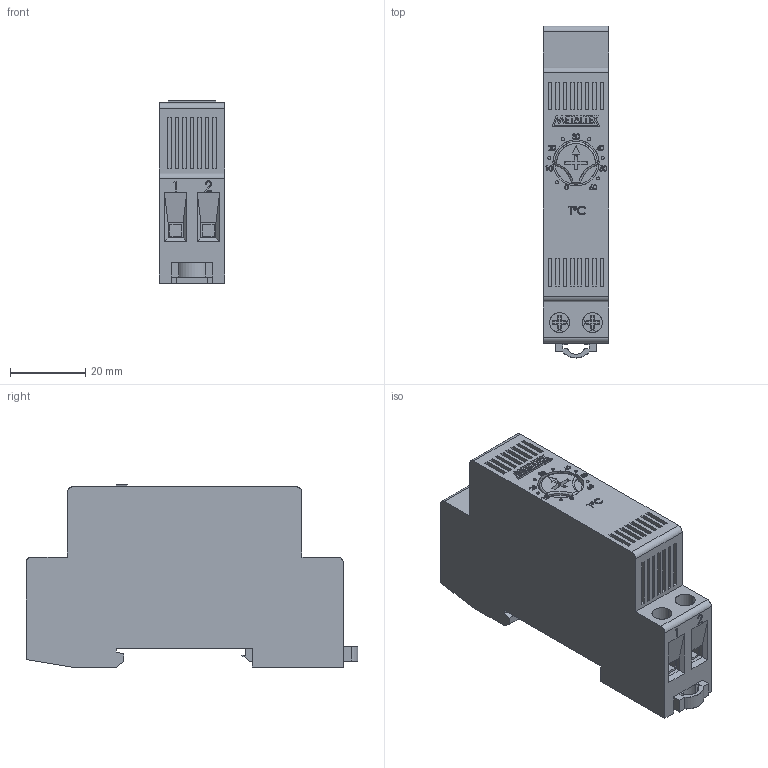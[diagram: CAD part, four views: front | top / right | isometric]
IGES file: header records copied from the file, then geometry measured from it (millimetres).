
Start section: SolidWorks IGES file using analytic representation for surfaces
Global section: file name: D:\X - Arquivos\PROEX\Empresas\P11 - METALTEX\01 - Produtos\IGES\5ª remessa\3ª etapa\TRS-A.IGS; native system: SolidWorks 2012; preprocessor: SolidWorks 2012; author: Usuario; date: 180829.124619; units: millimetre
Bounding box: 17.5 x 88.4 x 48.5 mm (x, y, z)
Surface area: 13403 mm2 (no closed solid volume)
Topology: 0 solids, 0 shells, 638 faces, 5787 edges, 5787 vertices
Faces by surface type: bspline 609, revolution 29
